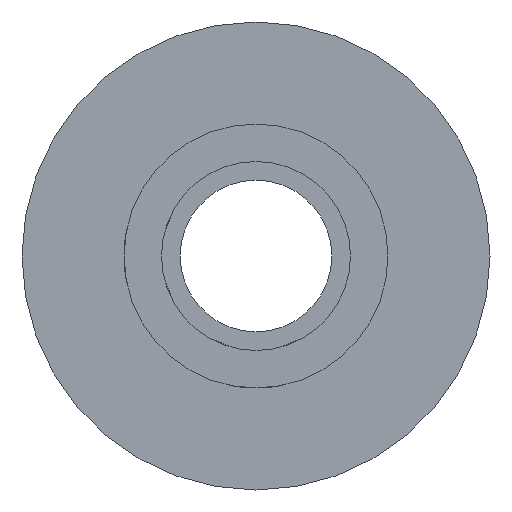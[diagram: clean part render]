
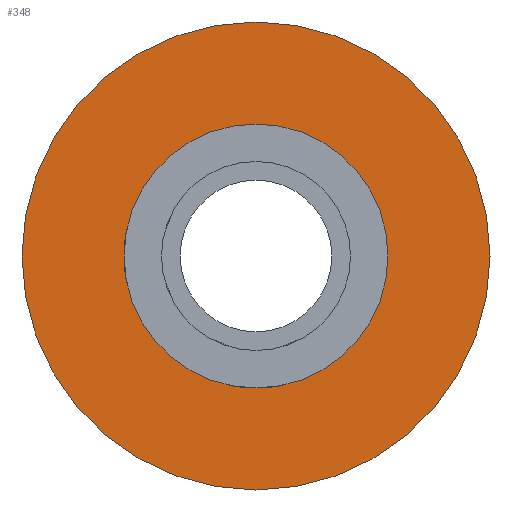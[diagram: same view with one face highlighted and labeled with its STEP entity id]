
A CAD part, left-side view. The second image highlights one B-rep face of the part: STEP entity #348.
In plain terms, the highlighted planar face has unit normal (-1, 0, 0).
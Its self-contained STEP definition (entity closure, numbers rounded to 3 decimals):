
#4 = CARTESIAN_POINT ( 'NONE',  ( 0., 0., 12.5 ) ) ;
#18 = CARTESIAN_POINT ( 'NONE',  ( 0., 0., 0. ) ) ;
#23 = CARTESIAN_POINT ( 'NONE',  ( 0., 0., -12.5 ) ) ;
#37 = ORIENTED_EDGE ( 'NONE', *, *, #173, .T. ) ;
#63 = VERTEX_POINT ( 'NONE', #4 ) ;
#92 = DIRECTION ( 'NONE',  ( -1., 0., 0. ) ) ;
#124 = AXIS2_PLACEMENT_3D ( 'NONE', #720, #92, #318 ) ;
#128 = DIRECTION ( 'NONE',  ( 0., 0., 1. ) ) ;
#129 = CARTESIAN_POINT ( 'NONE',  ( 0., 0., -7.05 ) ) ;
#145 = CARTESIAN_POINT ( 'NONE',  ( 0., 0., 7.05 ) ) ;
#146 = CIRCLE ( 'NONE', #469, 7.05 ) ;
#167 = AXIS2_PLACEMENT_3D ( 'NONE', #540, #468, #363 ) ;
#173 = EDGE_CURVE ( 'NONE', #63, #417, #202, .T. ) ;
#194 = DIRECTION ( 'NONE',  ( -1., 0., 0. ) ) ;
#196 = DIRECTION ( 'NONE',  ( -1., 0., 0. ) ) ;
#202 = CIRCLE ( 'NONE', #124, 12.5 ) ;
#304 = EDGE_LOOP ( 'NONE', ( #37, #467 ) ) ;
#316 = EDGE_LOOP ( 'NONE', ( #640, #558 ) ) ;
#318 = DIRECTION ( 'NONE',  ( 0., 0., 1. ) ) ;
#348 = ADVANCED_FACE ( 'NONE', ( #355, #415 ), #534, .T. ) ;
#355 = FACE_OUTER_BOUND ( 'NONE', #304, .T. ) ;
#363 = DIRECTION ( 'NONE',  ( 0., 0., 1. ) ) ;
#367 = EDGE_CURVE ( 'NONE', #492, #586, #605, .T. ) ;
#371 = AXIS2_PLACEMENT_3D ( 'NONE', #589, #194, #648 ) ;
#387 = EDGE_CURVE ( 'NONE', #586, #492, #146, .T. ) ;
#408 = CIRCLE ( 'NONE', #371, 12.5 ) ;
#415 = FACE_BOUND ( 'NONE', #316, .T. ) ;
#417 = VERTEX_POINT ( 'NONE', #23 ) ;
#448 = AXIS2_PLACEMENT_3D ( 'NONE', #599, #587, #650 ) ;
#467 = ORIENTED_EDGE ( 'NONE', *, *, #575, .T. ) ;
#468 = DIRECTION ( 'NONE',  ( -1., 0., 0. ) ) ;
#469 = AXIS2_PLACEMENT_3D ( 'NONE', #18, #196, #128 ) ;
#492 = VERTEX_POINT ( 'NONE', #145 ) ;
#534 = PLANE ( 'NONE',  #448 ) ;
#540 = CARTESIAN_POINT ( 'NONE',  ( 0., 0., 0. ) ) ;
#558 = ORIENTED_EDGE ( 'NONE', *, *, #387, .F. ) ;
#575 = EDGE_CURVE ( 'NONE', #417, #63, #408, .T. ) ;
#586 = VERTEX_POINT ( 'NONE', #129 ) ;
#587 = DIRECTION ( 'NONE',  ( -1., 0., 0. ) ) ;
#589 = CARTESIAN_POINT ( 'NONE',  ( 0., 0., 0. ) ) ;
#599 = CARTESIAN_POINT ( 'NONE',  ( 0., 0., 0. ) ) ;
#605 = CIRCLE ( 'NONE', #167, 7.05 ) ;
#640 = ORIENTED_EDGE ( 'NONE', *, *, #367, .F. ) ;
#648 = DIRECTION ( 'NONE',  ( 0., 0., 1. ) ) ;
#650 = DIRECTION ( 'NONE',  ( 0., 0., 1. ) ) ;
#720 = CARTESIAN_POINT ( 'NONE',  ( 0., 0., 0. ) ) ;
